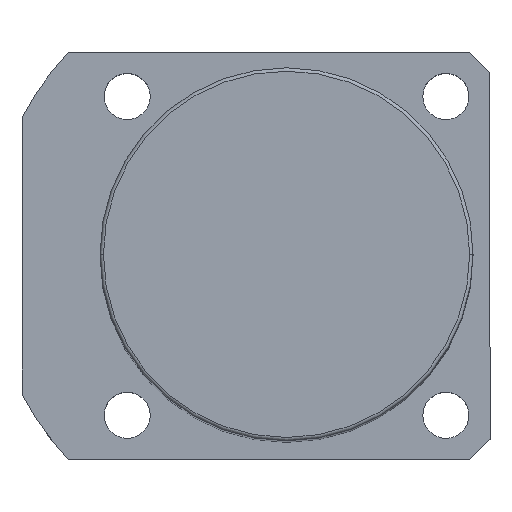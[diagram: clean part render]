
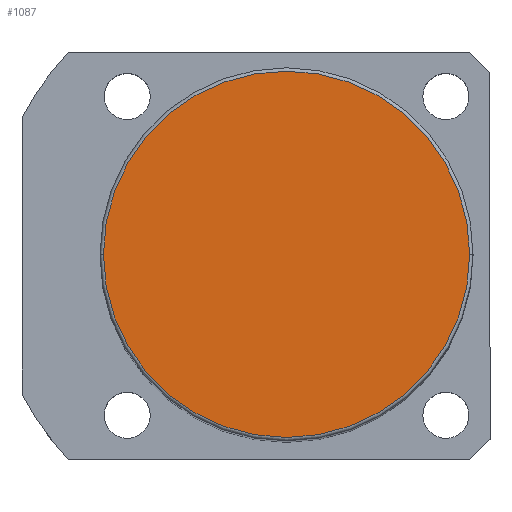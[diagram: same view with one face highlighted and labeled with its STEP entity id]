
A CAD part, top view. The second image highlights one B-rep face of the part: STEP entity #1087.
In plain terms, the highlighted planar face has unit normal (0, 0, 1).
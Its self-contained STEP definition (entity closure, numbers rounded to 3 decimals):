
#6 = CARTESIAN_POINT ( 'NONE',  ( 0., 0., 141. ) ) ;
#27 = EDGE_CURVE ( 'NONE', #218, #236, #1029, .T. ) ;
#82 = CIRCLE ( 'NONE', #1836, 27. ) ;
#127 = EDGE_LOOP ( 'NONE', ( #801, #1946 ) ) ;
#218 = VERTEX_POINT ( 'NONE', #2126 ) ;
#220 = AXIS2_PLACEMENT_3D ( 'NONE', #307, #1489, #2125 ) ;
#236 = VERTEX_POINT ( 'NONE', #1004 ) ;
#292 = PLANE ( 'NONE',  #220 ) ;
#307 = CARTESIAN_POINT ( 'NONE',  ( 0., 0., 141. ) ) ;
#350 = DIRECTION ( 'NONE',  ( 1., 0., 0. ) ) ;
#733 = FACE_OUTER_BOUND ( 'NONE', #127, .T. ) ;
#801 = ORIENTED_EDGE ( 'NONE', *, *, #1915, .T. ) ;
#924 = CARTESIAN_POINT ( 'NONE',  ( 0., 0., 141. ) ) ;
#1004 = CARTESIAN_POINT ( 'NONE',  ( 27., 0., 141. ) ) ;
#1029 = CIRCLE ( 'NONE', #1454, 27. ) ;
#1087 = ADVANCED_FACE ( 'NONE', ( #733 ), #292, .T. ) ;
#1097 = DIRECTION ( 'NONE',  ( 0., 0., 1. ) ) ;
#1454 = AXIS2_PLACEMENT_3D ( 'NONE', #924, #1097, #1735 ) ;
#1489 = DIRECTION ( 'NONE',  ( 0., 0., 1. ) ) ;
#1554 = DIRECTION ( 'NONE',  ( 0., 0., 1. ) ) ;
#1735 = DIRECTION ( 'NONE',  ( 1., 0., 0. ) ) ;
#1836 = AXIS2_PLACEMENT_3D ( 'NONE', #6, #1554, #350 ) ;
#1915 = EDGE_CURVE ( 'NONE', #236, #218, #82, .T. ) ;
#1946 = ORIENTED_EDGE ( 'NONE', *, *, #27, .T. ) ;
#2125 = DIRECTION ( 'NONE',  ( 1., 0., 0. ) ) ;
#2126 = CARTESIAN_POINT ( 'NONE',  ( -27., 0., 141. ) ) ;
